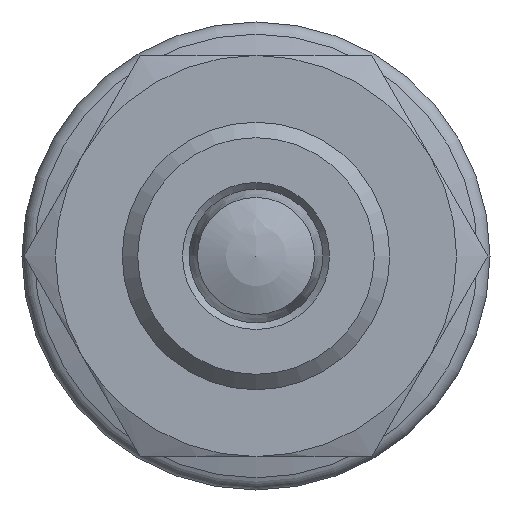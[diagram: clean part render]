
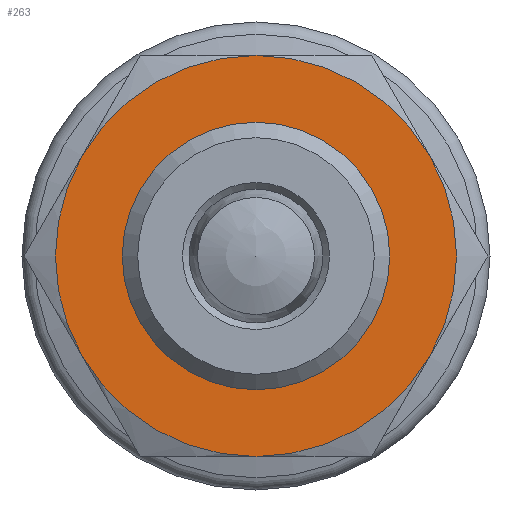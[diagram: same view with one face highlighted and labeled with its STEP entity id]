
A CAD part, left-side view. The second image highlights one B-rep face of the part: STEP entity #263.
In plain terms, the highlighted planar face has unit normal (-1, 0, 0) as drawn and (1, 0, 0) by its records, which use the part's own axes.
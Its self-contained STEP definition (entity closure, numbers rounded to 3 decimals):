
#263 = ADVANCED_FACE( '', ( #449, #450 ), #451, .F. );
#449 = FACE_BOUND( '', #659, .T. );
#450 = FACE_OUTER_BOUND( '', #660, .T. );
#451 = PLANE( '', #661 );
#659 = EDGE_LOOP( '', ( #1035 ) );
#660 = EDGE_LOOP( '', ( #1036, #1037, #1038, #1039, #1040, #1041 ) );
#661 = AXIS2_PLACEMENT_3D( '', #1042, #1043, #1044 );
#1035 = ORIENTED_EDGE( '', *, *, #1257, .F. );
#1036 = ORIENTED_EDGE( '', *, *, #1258, .T. );
#1037 = ORIENTED_EDGE( '', *, *, #1259, .T. );
#1038 = ORIENTED_EDGE( '', *, *, #1260, .T. );
#1039 = ORIENTED_EDGE( '', *, *, #1261, .T. );
#1040 = ORIENTED_EDGE( '', *, *, #1262, .T. );
#1041 = ORIENTED_EDGE( '', *, *, #1263, .T. );
#1042 = CARTESIAN_POINT( '', ( 8., 12., 0. ) );
#1043 = DIRECTION( '', ( -1., 0., 0. ) );
#1044 = DIRECTION( '', ( 0., 0., 1. ) );
#1257 = EDGE_CURVE( '', #1449, #1449, #1450, .T. );
#1258 = EDGE_CURVE( '', #1451, #1452, #1453, .T. );
#1259 = EDGE_CURVE( '', #1452, #1431, #1454, .T. );
#1260 = EDGE_CURVE( '', #1431, #1422, #1455, .T. );
#1261 = EDGE_CURVE( '', #1422, #1443, #1456, .T. );
#1262 = EDGE_CURVE( '', #1443, #1457, #1458, .T. );
#1263 = EDGE_CURVE( '', #1457, #1451, #1459, .T. );
#1422 = VERTEX_POINT( '', #1914 );
#1431 = VERTEX_POINT( '', #1944 );
#1443 = VERTEX_POINT( '', #1982 );
#1449 = VERTEX_POINT( '', #2012 );
#1450 = CIRCLE( '', #2013, 8. );
#1451 = VERTEX_POINT( '', #2014 );
#1452 = VERTEX_POINT( '', #2015 );
#1453 = CIRCLE( '', #2016, 12. );
#1454 = CIRCLE( '', #2017, 12. );
#1455 = CIRCLE( '', #2018, 12. );
#1456 = CIRCLE( '', #2019, 12. );
#1457 = VERTEX_POINT( '', #2020 );
#1458 = CIRCLE( '', #2021, 12. );
#1459 = CIRCLE( '', #2022, 12. );
#1914 = CARTESIAN_POINT( '', ( 8., 0., 12. ) );
#1944 = CARTESIAN_POINT( '', ( 8., 10.392, 6. ) );
#1982 = CARTESIAN_POINT( '', ( 8., -10.392, 6. ) );
#2012 = CARTESIAN_POINT( '', ( 8., 0., -8. ) );
#2013 = AXIS2_PLACEMENT_3D( '', #2285, #2286, #2287 );
#2014 = CARTESIAN_POINT( '', ( 8., 0., -12. ) );
#2015 = CARTESIAN_POINT( '', ( 8., 10.392, -6. ) );
#2016 = AXIS2_PLACEMENT_3D( '', #2288, #2289, #2290 );
#2017 = AXIS2_PLACEMENT_3D( '', #2291, #2292, #2293 );
#2018 = AXIS2_PLACEMENT_3D( '', #2294, #2295, #2296 );
#2019 = AXIS2_PLACEMENT_3D( '', #2297, #2298, #2299 );
#2020 = CARTESIAN_POINT( '', ( 8., -10.392, -6. ) );
#2021 = AXIS2_PLACEMENT_3D( '', #2300, #2301, #2302 );
#2022 = AXIS2_PLACEMENT_3D( '', #2303, #2304, #2305 );
#2285 = CARTESIAN_POINT( '', ( 8., 0., 0. ) );
#2286 = DIRECTION( '', ( 1., 0., 0. ) );
#2287 = DIRECTION( '', ( 0., 0., -1. ) );
#2288 = CARTESIAN_POINT( '', ( 8., 0., 0. ) );
#2289 = DIRECTION( '', ( 1., 0., 0. ) );
#2290 = DIRECTION( '', ( 0., 0., -1. ) );
#2291 = CARTESIAN_POINT( '', ( 8., 0., 0. ) );
#2292 = DIRECTION( '', ( 1., 0., 0. ) );
#2293 = DIRECTION( '', ( 0., 0., -1. ) );
#2294 = CARTESIAN_POINT( '', ( 8., 0., 0. ) );
#2295 = DIRECTION( '', ( 1., 0., 0. ) );
#2296 = DIRECTION( '', ( 0., 0., -1. ) );
#2297 = CARTESIAN_POINT( '', ( 8., 0., 0. ) );
#2298 = DIRECTION( '', ( 1., 0., 0. ) );
#2299 = DIRECTION( '', ( 0., 0., -1. ) );
#2300 = CARTESIAN_POINT( '', ( 8., 0., 0. ) );
#2301 = DIRECTION( '', ( 1., 0., 0. ) );
#2302 = DIRECTION( '', ( 0., 0., -1. ) );
#2303 = CARTESIAN_POINT( '', ( 8., 0., 0. ) );
#2304 = DIRECTION( '', ( 1., 0., 0. ) );
#2305 = DIRECTION( '', ( 0., 0., -1. ) );
